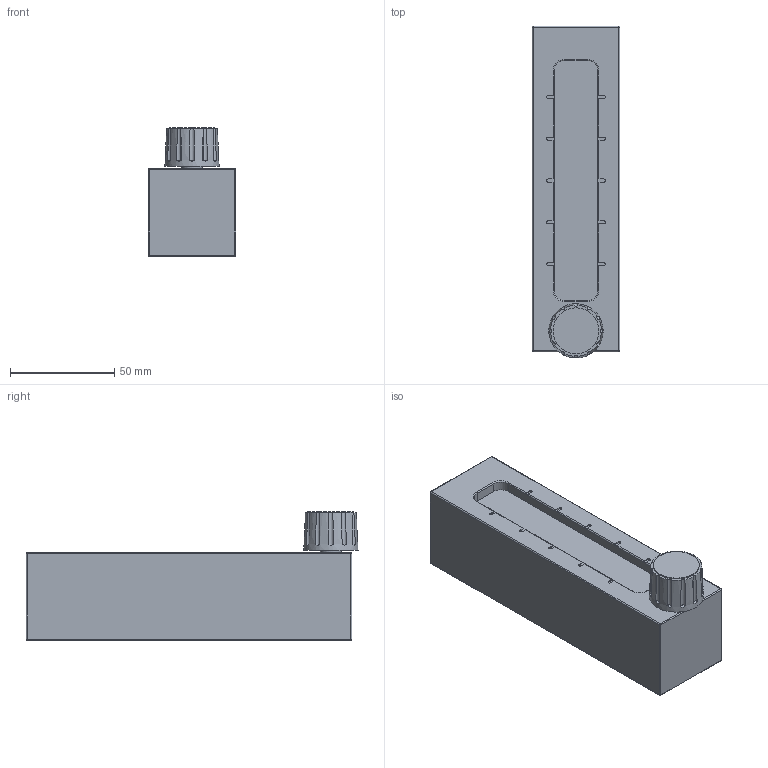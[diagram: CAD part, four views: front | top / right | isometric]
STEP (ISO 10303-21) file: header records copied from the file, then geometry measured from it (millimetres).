
FILE_DESCRIPTION(/* description */ (''),/* implementation_level */ '2;1');
FILE_NAME(/* name */ 'STRAIGHTNESS REFLECTOR.stp',/* time_stamp */ '2011-07-20T14:21:47+01:00',/* author */ (''),/* organization */ (''),/* preprocessor_version */ 'ST-DEVELOPER v11',/* originating_system */ 'SIEMENS PLM Software NX 7.5',/* authorisation */ '');
FILE_SCHEMA (('CONFIG_CONTROL_DESIGN'));
Length unit declared in the file: millimetre
Products named in the file (1): ad131DB9mm6w
Bounding box: 42 x 158.99 x 61.5 mm (x, y, z)
Volume: 271910.2 mm3; surface area: 34122.4 mm2
Topology: 2 solids, 2 shells, 494 faces, 1317 edges, 856 vertices
Faces by surface type: plane 329, extrusion 71, cylinder 65, cone 17, sphere 8, torus 4
Full cylindrical faces by diameter (mm): 1.7 x1, 2 x1, 2.5 x4, 10 x1, 17.8 x1, 18 x1, 22 x1
Entity records: 15608 total; most frequent: CARTESIAN_POINT 3605, ORIENTED_EDGE 2566, DIRECTION 2171, EDGE_CURVE 1283, VECTOR 1029, LINE 958, VERTEX_POINT 849, AXIS2_PLACEMENT_3D 571
